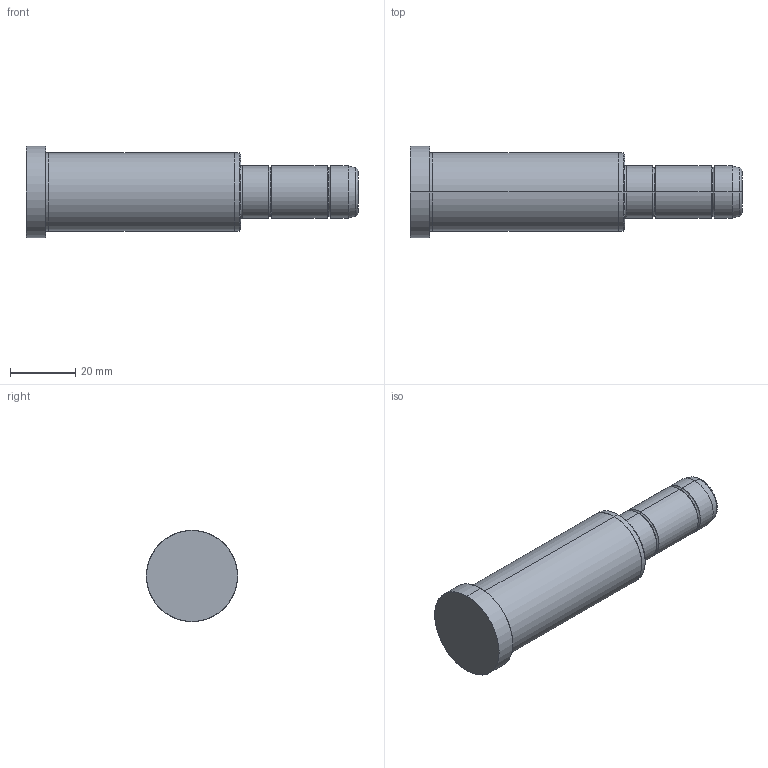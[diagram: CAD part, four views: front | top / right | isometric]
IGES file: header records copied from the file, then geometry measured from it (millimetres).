
Start section: SolidWorks IGES file using analytic representation for surfaces
Global section: file name: C:\Documents and Settings\kalite-mail\Desktop\IGS\D02\16\D02 - 16x66x36.IGS; native system: SolidWorks 2008; preprocessor: SolidWorks 2008; author: kalite-mail; date: 080616.144120; units: millimetre
Bounding box: 102 x 28 x 28 mm (x, y, z)
Surface area: 8064.5 mm2 (no closed solid volume)
Topology: 0 solids, 0 shells, 36 faces, 504 edges, 504 vertices
Faces by surface type: bspline 18, revolution 18
